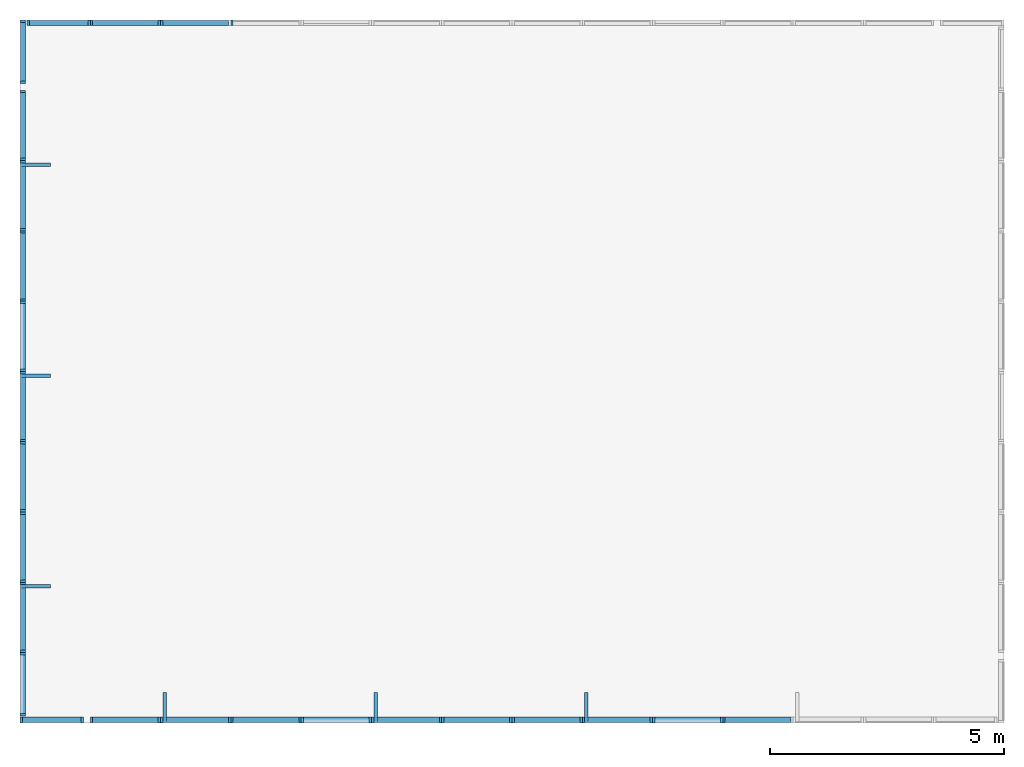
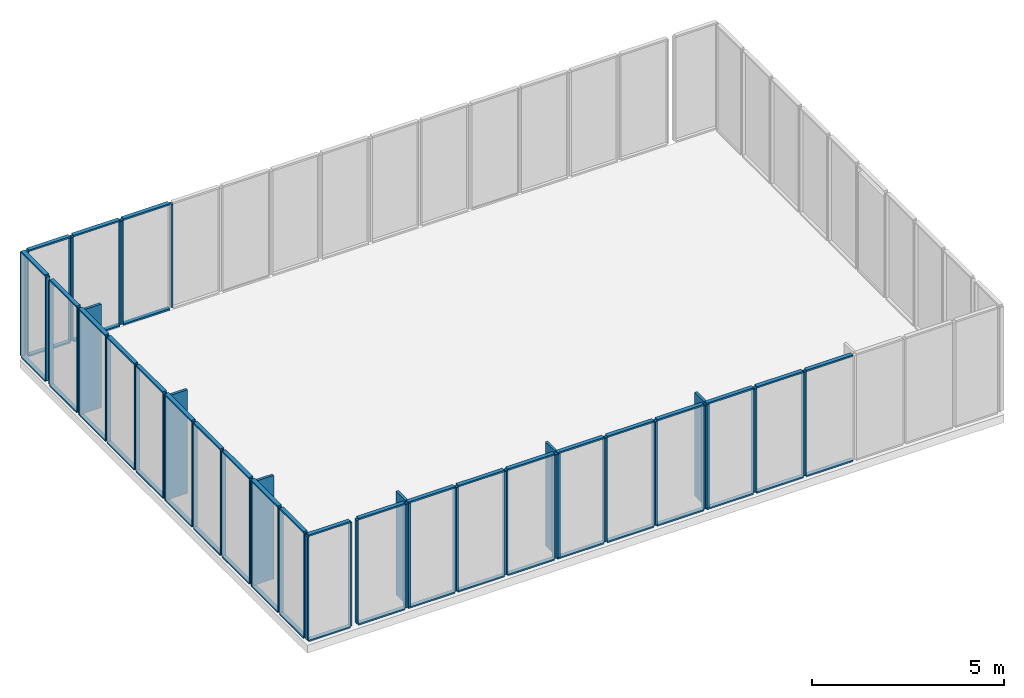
# One storey, part 1 of 3: 101 members.
"""IFC4 building model written with IfcOpenShell, lengths in metres."""

from ifc_helpers import new_model, si_unit, frame, origin_with_axes, place, context, subcontext, project, spatial, indexed_curve, outline, extrude, material, element, save


model = new_model("IFC4")

# Units and contexts
model_context = context("Model", 3, precision=1e-05, world=origin_with_axes())
body_context = subcontext(model_context, "Body", "Model", "MODEL_VIEW")
ifc_project = project(units=[si_unit("AREAUNIT", "SQUARE_METRE"), si_unit("VOLUMEUNIT", "CUBIC_METRE"), si_unit("LENGTHUNIT", "METRE")], contexts=[model_context])

# Site, building, storey
site = spatial("IfcSite", under=ifc_project, Name="Synthetic Site")
building = spatial("IfcBuilding", under=site, Name="Complex Tower")
storey_placement = place(None, frame((0.0, 0.0, 19.8), z_axis=(0.0, 0.0, 1.0), x_axis=(1.0, 0.0, 0.0)))
storey = spatial("IfcBuildingStorey", under=building, at=storey_placement, Name="L06", Elevation=19.8)

# Members
ifc_material = material(Name="Aluminium")
for number, where, z_axis, x_axis, name in (
    (1, (3.0, 1.5, 0.14999999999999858), (0.0, 0.0, 1.0), (1.0, 0.0, 0.0), "CT-L06-S-001-ML"),
    (2, (4.3, 1.5, 0.14999999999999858), (0.0, 0.0, 1.0), (1.0, 0.0, 0.0), "CT-L06-S-001-MR"),
):
    element("IfcMember", number, at=place(storey_placement, frame(where, z_axis=z_axis, x_axis=x_axis)), inside=storey, material=ifc_material, Name=name, PredefinedType="MULLION", context=body_context, shape_type="SweptSolid", body=[
        extrude(outline(indexed_curve([(0.0, 0.0), (0.0, 0.12), (0.05, 0.12), (0.05, 0.0), (0.0, 0.0)], self_intersect=False)), origin_with_axes(), (0.0, 0.0, 1.0), 3.3000000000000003),
    ])
for number, where, z_axis, x_axis, name in (
    (3, (3.05, 1.5, 0.09999999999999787), (0.0, 0.0, 1.0), (1.0, 0.0, 0.0), "CT-L06-S-001-FB"),
    (4, (3.05, 1.5, 3.4499999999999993), (0.0, 0.0, 1.0), (1.0, 0.0, 0.0), "CT-L06-S-001-FT"),
):
    element("IfcMember", number, at=place(storey_placement, frame(where, z_axis=z_axis, x_axis=x_axis)), inside=storey, material=ifc_material, Name=name, PredefinedType="MULLION", context=body_context, shape_type="SweptSolid", body=[
        extrude(outline(indexed_curve([(0.0, 0.0), (0.0, 0.12), (1.25, 0.12), (1.25, 0.0), (0.0, 0.0)], self_intersect=False)), origin_with_axes(), (0.0, 0.0, 1.0), 0.05),
    ])
for number, where, z_axis, x_axis, name in (
    (5, (4.5, 1.5, 0.14999999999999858), (0.0, 0.0, 1.0), (1.0, 0.0, 0.0), "CT-L06-S-002-ML"),
    (6, (5.949999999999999, 1.5, 0.14999999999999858), (0.0, 0.0, 1.0), (1.0, 0.0, 0.0), "CT-L06-S-002-MR"),
):
    element("IfcMember", number, at=place(storey_placement, frame(where, z_axis=z_axis, x_axis=x_axis)), inside=storey, material=ifc_material, Name=name, PredefinedType="MULLION", context=body_context, shape_type="SweptSolid", body=[
        extrude(outline(indexed_curve([(0.0, 0.0), (0.0, 0.12), (0.05, 0.12), (0.05, 0.0), (0.0, 0.0)], self_intersect=False)), origin_with_axes(), (0.0, 0.0, 1.0), 3.3000000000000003),
    ])
for number, where, z_axis, x_axis, name in (
    (7, (4.55, 1.5, 0.09999999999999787), (0.0, 0.0, 1.0), (1.0, 0.0, 0.0), "CT-L06-S-002-FB"),
    (8, (4.55, 1.5, 3.4499999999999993), (0.0, 0.0, 1.0), (1.0, 0.0, 0.0), "CT-L06-S-002-FT"),
):
    element("IfcMember", number, at=place(storey_placement, frame(where, z_axis=z_axis, x_axis=x_axis)), inside=storey, material=ifc_material, Name=name, PredefinedType="MULLION", context=body_context, shape_type="SweptSolid", body=[
        extrude(outline(indexed_curve([(0.0, 0.0), (0.0, 0.12), (1.4, 0.12), (1.4, 0.0), (0.0, 0.0)], self_intersect=False)), origin_with_axes(), (0.0, 0.0, 1.0), 0.05),
    ])
for number, where, z_axis, x_axis, name in (
    (9, (6.0, 1.5, 0.14999999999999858), (0.0, 0.0, 1.0), (1.0, 0.0, 0.0), "CT-L06-S-003-ML"),
    (10, (7.449999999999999, 1.5, 0.14999999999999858), (0.0, 0.0, 1.0), (1.0, 0.0, 0.0), "CT-L06-S-003-MR"),
):
    element("IfcMember", number, at=place(storey_placement, frame(where, z_axis=z_axis, x_axis=x_axis)), inside=storey, material=ifc_material, Name=name, PredefinedType="MULLION", context=body_context, shape_type="SweptSolid", body=[
        extrude(outline(indexed_curve([(0.0, 0.0), (0.0, 0.12), (0.05, 0.12), (0.05, 0.0), (0.0, 0.0)], self_intersect=False)), origin_with_axes(), (0.0, 0.0, 1.0), 3.3000000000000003),
    ])
for number, where, z_axis, x_axis, name in (
    (11, (6.05, 1.5, 0.09999999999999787), (0.0, 0.0, 1.0), (1.0, 0.0, 0.0), "CT-L06-S-003-FB"),
    (12, (6.05, 1.5, 3.4499999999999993), (0.0, 0.0, 1.0), (1.0, 0.0, 0.0), "CT-L06-S-003-FT"),
):
    element("IfcMember", number, at=place(storey_placement, frame(where, z_axis=z_axis, x_axis=x_axis)), inside=storey, material=ifc_material, Name=name, PredefinedType="MULLION", context=body_context, shape_type="SweptSolid", body=[
        extrude(outline(indexed_curve([(0.0, 0.0), (0.0, 0.12), (1.4, 0.12), (1.4, 0.0), (0.0, 0.0)], self_intersect=False)), origin_with_axes(), (0.0, 0.0, 1.0), 0.05),
    ])
member_1_placement = place(storey_placement, frame((6.05, 1.5, 0.14999999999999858), z_axis=(0.0, 0.0, 1.0), x_axis=(1.0, 0.0, 0.0)))
element("IfcMember", 13, at=member_1_placement, inside=storey, material=ifc_material, Name="CT-L06-S-003-FIN", ObjectType="Solar shading", PredefinedType="USERDEFINED", context=body_context, shape_type="SweptSolid", body=[
    extrude(outline(indexed_curve([(0.0, 0.0), (0.0, 0.65), (0.075, 0.65), (0.075, 0.0), (0.0, 0.0)], self_intersect=False)), origin_with_axes(), (0.0, 0.0, 1.0), 3.3000000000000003),
])
for number, where, z_axis, x_axis, name in (
    (14, (7.5, 1.5, 0.14999999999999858), (0.0, 0.0, 1.0), (1.0, 0.0, 0.0), "CT-L06-S-004-ML"),
    (15, (8.95, 1.5, 0.14999999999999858), (0.0, 0.0, 1.0), (1.0, 0.0, 0.0), "CT-L06-S-004-MR"),
):
    element("IfcMember", number, at=place(storey_placement, frame(where, z_axis=z_axis, x_axis=x_axis)), inside=storey, material=ifc_material, Name=name, PredefinedType="MULLION", context=body_context, shape_type="SweptSolid", body=[
        extrude(outline(indexed_curve([(0.0, 0.0), (0.0, 0.12), (0.05, 0.12), (0.05, 0.0), (0.0, 0.0)], self_intersect=False)), origin_with_axes(), (0.0, 0.0, 1.0), 3.3000000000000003),
    ])
for number, where, z_axis, x_axis, name in (
    (16, (7.55, 1.5, 0.09999999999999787), (0.0, 0.0, 1.0), (1.0, 0.0, 0.0), "CT-L06-S-004-FB"),
    (17, (7.55, 1.5, 3.4499999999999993), (0.0, 0.0, 1.0), (1.0, 0.0, 0.0), "CT-L06-S-004-FT"),
):
    element("IfcMember", number, at=place(storey_placement, frame(where, z_axis=z_axis, x_axis=x_axis)), inside=storey, material=ifc_material, Name=name, PredefinedType="MULLION", context=body_context, shape_type="SweptSolid", body=[
        extrude(outline(indexed_curve([(0.0, 0.0), (0.0, 0.12), (1.4, 0.12), (1.4, 0.0), (0.0, 0.0)], self_intersect=False)), origin_with_axes(), (0.0, 0.0, 1.0), 0.05),
    ])
for number, where, z_axis, x_axis, name in (
    (18, (9.0, 1.5, 0.14999999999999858), (0.0, 0.0, 1.0), (1.0, 0.0, 0.0), "CT-L06-S-005-ML"),
    (19, (10.450000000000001, 1.5, 0.14999999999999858), (0.0, 0.0, 1.0), (1.0, 0.0, 0.0), "CT-L06-S-005-MR"),
):
    element("IfcMember", number, at=place(storey_placement, frame(where, z_axis=z_axis, x_axis=x_axis)), inside=storey, material=ifc_material, Name=name, PredefinedType="MULLION", context=body_context, shape_type="SweptSolid", body=[
        extrude(outline(indexed_curve([(0.0, 0.0), (0.0, 0.12), (0.05, 0.12), (0.05, 0.0), (0.0, 0.0)], self_intersect=False)), origin_with_axes(), (0.0, 0.0, 1.0), 3.3000000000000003),
    ])
for number, where, z_axis, x_axis, name in (
    (20, (9.05, 1.5, 0.09999999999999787), (0.0, 0.0, 1.0), (1.0, 0.0, 0.0), "CT-L06-S-005-FB"),
    (21, (9.05, 1.5, 3.4499999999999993), (0.0, 0.0, 1.0), (1.0, 0.0, 0.0), "CT-L06-S-005-FT"),
):
    element("IfcMember", number, at=place(storey_placement, frame(where, z_axis=z_axis, x_axis=x_axis)), inside=storey, material=ifc_material, Name=name, PredefinedType="MULLION", context=body_context, shape_type="SweptSolid", body=[
        extrude(outline(indexed_curve([(0.0, 0.0), (0.0, 0.12), (1.4, 0.12), (1.4, 0.0), (0.0, 0.0)], self_intersect=False)), origin_with_axes(), (0.0, 0.0, 1.0), 0.05),
    ])
for number, where, z_axis, x_axis, name in (
    (22, (10.5, 1.5, 0.14999999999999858), (0.0, 0.0, 1.0), (1.0, 0.0, 0.0), "CT-L06-S-006-ML"),
    (23, (11.950000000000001, 1.5, 0.14999999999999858), (0.0, 0.0, 1.0), (1.0, 0.0, 0.0), "CT-L06-S-006-MR"),
):
    element("IfcMember", number, at=place(storey_placement, frame(where, z_axis=z_axis, x_axis=x_axis)), inside=storey, material=ifc_material, Name=name, PredefinedType="MULLION", context=body_context, shape_type="SweptSolid", body=[
        extrude(outline(indexed_curve([(0.0, 0.0), (0.0, 0.12), (0.05, 0.12), (0.05, 0.0), (0.0, 0.0)], self_intersect=False)), origin_with_axes(), (0.0, 0.0, 1.0), 3.3000000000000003),
    ])
for number, where, z_axis, x_axis, name in (
    (24, (10.55, 1.5, 0.09999999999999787), (0.0, 0.0, 1.0), (1.0, 0.0, 0.0), "CT-L06-S-006-FB"),
    (25, (10.55, 1.5, 3.4499999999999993), (0.0, 0.0, 1.0), (1.0, 0.0, 0.0), "CT-L06-S-006-FT"),
):
    element("IfcMember", number, at=place(storey_placement, frame(where, z_axis=z_axis, x_axis=x_axis)), inside=storey, material=ifc_material, Name=name, PredefinedType="MULLION", context=body_context, shape_type="SweptSolid", body=[
        extrude(outline(indexed_curve([(0.0, 0.0), (0.0, 0.12), (1.4, 0.12), (1.4, 0.0), (0.0, 0.0)], self_intersect=False)), origin_with_axes(), (0.0, 0.0, 1.0), 0.05),
    ])
member_2_placement = place(storey_placement, frame((10.55, 1.5, 0.14999999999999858), z_axis=(0.0, 0.0, 1.0), x_axis=(1.0, 0.0, 0.0)))
element("IfcMember", 26, at=member_2_placement, inside=storey, material=ifc_material, Name="CT-L06-S-006-FIN", ObjectType="Solar shading", PredefinedType="USERDEFINED", context=body_context, shape_type="SweptSolid", body=[
    extrude(outline(indexed_curve([(0.0, 0.0), (0.0, 0.65), (0.075, 0.65), (0.075, 0.0), (0.0, 0.0)], self_intersect=False)), origin_with_axes(), (0.0, 0.0, 1.0), 3.3000000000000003),
])
for number, where, z_axis, x_axis, name in (
    (27, (12.0, 1.5, 0.14999999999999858), (0.0, 0.0, 1.0), (1.0, 0.0, 0.0), "CT-L06-S-007-ML"),
    (28, (13.450000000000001, 1.5, 0.14999999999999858), (0.0, 0.0, 1.0), (1.0, 0.0, 0.0), "CT-L06-S-007-MR"),
):
    element("IfcMember", number, at=place(storey_placement, frame(where, z_axis=z_axis, x_axis=x_axis)), inside=storey, material=ifc_material, Name=name, PredefinedType="MULLION", context=body_context, shape_type="SweptSolid", body=[
        extrude(outline(indexed_curve([(0.0, 0.0), (0.0, 0.12), (0.05, 0.12), (0.05, 0.0), (0.0, 0.0)], self_intersect=False)), origin_with_axes(), (0.0, 0.0, 1.0), 3.3000000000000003),
    ])
for number, where, z_axis, x_axis, name in (
    (29, (12.05, 1.5, 0.09999999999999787), (0.0, 0.0, 1.0), (1.0, 0.0, 0.0), "CT-L06-S-007-FB"),
    (30, (12.05, 1.5, 3.4499999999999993), (0.0, 0.0, 1.0), (1.0, 0.0, 0.0), "CT-L06-S-007-FT"),
):
    element("IfcMember", number, at=place(storey_placement, frame(where, z_axis=z_axis, x_axis=x_axis)), inside=storey, material=ifc_material, Name=name, PredefinedType="MULLION", context=body_context, shape_type="SweptSolid", body=[
        extrude(outline(indexed_curve([(0.0, 0.0), (0.0, 0.12), (1.4, 0.12), (1.4, 0.0), (0.0, 0.0)], self_intersect=False)), origin_with_axes(), (0.0, 0.0, 1.0), 0.05),
    ])
for number, where, z_axis, x_axis, name in (
    (31, (13.5, 1.5, 0.14999999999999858), (0.0, 0.0, 1.0), (1.0, 0.0, 0.0), "CT-L06-S-008-ML"),
    (32, (14.950000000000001, 1.5, 0.14999999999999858), (0.0, 0.0, 1.0), (1.0, 0.0, 0.0), "CT-L06-S-008-MR"),
):
    element("IfcMember", number, at=place(storey_placement, frame(where, z_axis=z_axis, x_axis=x_axis)), inside=storey, material=ifc_material, Name=name, PredefinedType="MULLION", context=body_context, shape_type="SweptSolid", body=[
        extrude(outline(indexed_curve([(0.0, 0.0), (0.0, 0.12), (0.05, 0.12), (0.05, 0.0), (0.0, 0.0)], self_intersect=False)), origin_with_axes(), (0.0, 0.0, 1.0), 3.3000000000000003),
    ])
for number, where, z_axis, x_axis, name in (
    (33, (13.55, 1.5, 0.09999999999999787), (0.0, 0.0, 1.0), (1.0, 0.0, 0.0), "CT-L06-S-008-FB"),
    (34, (13.55, 1.5, 3.4499999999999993), (0.0, 0.0, 1.0), (1.0, 0.0, 0.0), "CT-L06-S-008-FT"),
):
    element("IfcMember", number, at=place(storey_placement, frame(where, z_axis=z_axis, x_axis=x_axis)), inside=storey, material=ifc_material, Name=name, PredefinedType="MULLION", context=body_context, shape_type="SweptSolid", body=[
        extrude(outline(indexed_curve([(0.0, 0.0), (0.0, 0.12), (1.4, 0.12), (1.4, 0.0), (0.0, 0.0)], self_intersect=False)), origin_with_axes(), (0.0, 0.0, 1.0), 0.05),
    ])
for number, where, z_axis, x_axis, name in (
    (35, (15.0, 1.5, 0.14999999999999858), (0.0, 0.0, 1.0), (1.0, 0.0, 0.0), "CT-L06-S-009-ML"),
    (36, (16.45, 1.5, 0.14999999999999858), (0.0, 0.0, 1.0), (1.0, 0.0, 0.0), "CT-L06-S-009-MR"),
):
    element("IfcMember", number, at=place(storey_placement, frame(where, z_axis=z_axis, x_axis=x_axis)), inside=storey, material=ifc_material, Name=name, PredefinedType="MULLION", context=body_context, shape_type="SweptSolid", body=[
        extrude(outline(indexed_curve([(0.0, 0.0), (0.0, 0.12), (0.05, 0.12), (0.05, 0.0), (0.0, 0.0)], self_intersect=False)), origin_with_axes(), (0.0, 0.0, 1.0), 3.3000000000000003),
    ])
for number, where, z_axis, x_axis, name in (
    (37, (15.05, 1.5, 0.09999999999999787), (0.0, 0.0, 1.0), (1.0, 0.0, 0.0), "CT-L06-S-009-FB"),
    (38, (15.05, 1.5, 3.4499999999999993), (0.0, 0.0, 1.0), (1.0, 0.0, 0.0), "CT-L06-S-009-FT"),
):
    element("IfcMember", number, at=place(storey_placement, frame(where, z_axis=z_axis, x_axis=x_axis)), inside=storey, material=ifc_material, Name=name, PredefinedType="MULLION", context=body_context, shape_type="SweptSolid", body=[
        extrude(outline(indexed_curve([(0.0, 0.0), (0.0, 0.12), (1.4, 0.12), (1.4, 0.0), (0.0, 0.0)], self_intersect=False)), origin_with_axes(), (0.0, 0.0, 1.0), 0.05),
    ])
member_3_placement = place(storey_placement, frame((15.05, 1.5, 0.14999999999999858), z_axis=(0.0, 0.0, 1.0), x_axis=(1.0, 0.0, 0.0)))
element("IfcMember", 39, at=member_3_placement, inside=storey, material=ifc_material, Name="CT-L06-S-009-FIN", ObjectType="Solar shading", PredefinedType="USERDEFINED", context=body_context, shape_type="SweptSolid", body=[
    extrude(outline(indexed_curve([(0.0, 0.0), (0.0, 0.65), (0.075, 0.65), (0.075, 0.0), (0.0, 0.0)], self_intersect=False)), origin_with_axes(), (0.0, 0.0, 1.0), 3.3000000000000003),
])
for number, where, z_axis, x_axis, name in (
    (40, (16.5, 1.5, 0.14999999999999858), (0.0, 0.0, 1.0), (1.0, 0.0, 0.0), "CT-L06-S-010-ML"),
    (41, (17.95, 1.5, 0.14999999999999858), (0.0, 0.0, 1.0), (1.0, 0.0, 0.0), "CT-L06-S-010-MR"),
):
    element("IfcMember", number, at=place(storey_placement, frame(where, z_axis=z_axis, x_axis=x_axis)), inside=storey, material=ifc_material, Name=name, PredefinedType="MULLION", context=body_context, shape_type="SweptSolid", body=[
        extrude(outline(indexed_curve([(0.0, 0.0), (0.0, 0.12), (0.05, 0.12), (0.05, 0.0), (0.0, 0.0)], self_intersect=False)), origin_with_axes(), (0.0, 0.0, 1.0), 3.3000000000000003),
    ])
for number, where, z_axis, x_axis, name in (
    (42, (16.55, 1.5, 0.09999999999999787), (0.0, 0.0, 1.0), (1.0, 0.0, 0.0), "CT-L06-S-010-FB"),
    (43, (16.55, 1.5, 3.4499999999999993), (0.0, 0.0, 1.0), (1.0, 0.0, 0.0), "CT-L06-S-010-FT"),
):
    element("IfcMember", number, at=place(storey_placement, frame(where, z_axis=z_axis, x_axis=x_axis)), inside=storey, material=ifc_material, Name=name, PredefinedType="MULLION", context=body_context, shape_type="SweptSolid", body=[
        extrude(outline(indexed_curve([(0.0, 0.0), (0.0, 0.12), (1.4, 0.12), (1.4, 0.0), (0.0, 0.0)], self_intersect=False)), origin_with_axes(), (0.0, 0.0, 1.0), 0.05),
    ])
member_4_placement = place(storey_placement, frame((18.0, 1.5, 0.14999999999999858), z_axis=(0.0, 0.0, 1.0), x_axis=(1.0, 0.0, 0.0)))
element("IfcMember", 44, at=member_4_placement, inside=storey, material=ifc_material, Name="CT-L06-S-011-ML", PredefinedType="MULLION", context=body_context, shape_type="SweptSolid", body=[
    extrude(outline(indexed_curve([(0.0, 0.0), (0.0, 0.12), (0.05, 0.12), (0.05, 0.0), (0.0, 0.0)], self_intersect=False)), origin_with_axes(), (0.0, 0.0, 1.0), 3.3000000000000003),
])
for number, where, z_axis, x_axis, name in (
    (45, (18.05, 1.5, 0.09999999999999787), (0.0, 0.0, 1.0), (1.0, 0.0, 0.0), "CT-L06-S-011-FB"),
    (46, (18.05, 1.5, 3.4499999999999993), (0.0, 0.0, 1.0), (1.0, 0.0, 0.0), "CT-L06-S-011-FT"),
):
    element("IfcMember", number, at=place(storey_placement, frame(where, z_axis=z_axis, x_axis=x_axis)), inside=storey, material=ifc_material, Name=name, PredefinedType="MULLION", context=body_context, shape_type="SweptSolid", body=[
        extrude(outline(indexed_curve([(0.0, 0.0), (0.0, 0.12), (1.4, 0.12), (1.4, 0.0), (0.0, 0.0)], self_intersect=False)), origin_with_axes(), (0.0, 0.0, 1.0), 0.05),
    ])
for number, where, z_axis, x_axis, name in (
    (47, (7.549999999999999, 16.500000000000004, 0.14999999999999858), (0.0, 0.0, 1.0), (-1.0, 1.2246467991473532e-16, 0.0), "CT-L06-N-011-MR"),
    (48, (6.049999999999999, 16.500000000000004, 0.14999999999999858), (0.0, 0.0, 1.0), (-1.0, 1.2246467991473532e-16, 0.0), "CT-L06-N-012-MR"),
):
    element("IfcMember", number, at=place(storey_placement, frame(where, z_axis=z_axis, x_axis=x_axis)), inside=storey, material=ifc_material, Name=name, PredefinedType="MULLION", context=body_context, shape_type="SweptSolid", body=[
        extrude(outline(indexed_curve([(0.0, 0.0), (0.0, 0.12), (0.05, 0.12), (0.05, 0.0), (0.0, 0.0)], self_intersect=False)), origin_with_axes(), (0.0, 0.0, 1.0), 3.3000000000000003),
    ])
for number, where, z_axis, x_axis, name in (
    (49, (7.449999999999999, 16.500000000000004, 0.09999999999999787), (0.0, 0.0, 1.0), (-1.0, 1.2246467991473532e-16, 0.0), "CT-L06-N-012-FB"),
    (50, (7.449999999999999, 16.500000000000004, 3.4499999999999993), (0.0, 0.0, 1.0), (-1.0, 1.2246467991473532e-16, 0.0), "CT-L06-N-012-FT"),
):
    element("IfcMember", number, at=place(storey_placement, frame(where, z_axis=z_axis, x_axis=x_axis)), inside=storey, material=ifc_material, Name=name, PredefinedType="MULLION", context=body_context, shape_type="SweptSolid", body=[
        extrude(outline(indexed_curve([(0.0, 0.0), (0.0, 0.12), (1.4, 0.12), (1.4, 0.0), (0.0, 0.0)], self_intersect=False)), origin_with_axes(), (0.0, 0.0, 1.0), 0.05),
    ])
for number, where, z_axis, x_axis, name in (
    (51, (5.999999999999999, 16.500000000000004, 0.14999999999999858), (0.0, 0.0, 1.0), (-1.0, 1.2246467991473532e-16, 0.0), "CT-L06-N-013-ML"),
    (52, (4.549999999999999, 16.500000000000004, 0.14999999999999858), (0.0, 0.0, 1.0), (-1.0, 1.2246467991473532e-16, 0.0), "CT-L06-N-013-MR"),
):
    element("IfcMember", number, at=place(storey_placement, frame(where, z_axis=z_axis, x_axis=x_axis)), inside=storey, material=ifc_material, Name=name, PredefinedType="MULLION", context=body_context, shape_type="SweptSolid", body=[
        extrude(outline(indexed_curve([(0.0, 0.0), (0.0, 0.12), (0.05, 0.12), (0.05, 0.0), (0.0, 0.0)], self_intersect=False)), origin_with_axes(), (0.0, 0.0, 1.0), 3.3000000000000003),
    ])
for number, where, z_axis, x_axis, name in (
    (53, (5.949999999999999, 16.500000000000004, 0.09999999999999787), (0.0, 0.0, 1.0), (-1.0, 1.2246467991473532e-16, 0.0), "CT-L06-N-013-FB"),
    (54, (5.949999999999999, 16.500000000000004, 3.4499999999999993), (0.0, 0.0, 1.0), (-1.0, 1.2246467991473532e-16, 0.0), "CT-L06-N-013-FT"),
):
    element("IfcMember", number, at=place(storey_placement, frame(where, z_axis=z_axis, x_axis=x_axis)), inside=storey, material=ifc_material, Name=name, PredefinedType="MULLION", context=body_context, shape_type="SweptSolid", body=[
        extrude(outline(indexed_curve([(0.0, 0.0), (0.0, 0.12), (1.4, 0.12), (1.4, 0.0), (0.0, 0.0)], self_intersect=False)), origin_with_axes(), (0.0, 0.0, 1.0), 0.05),
    ])
for number, where, z_axis, x_axis, name in (
    (55, (4.499999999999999, 16.500000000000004, 0.14999999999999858), (0.0, 0.0, 1.0), (-1.0, 1.2246467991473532e-16, 0.0), "CT-L06-N-014-ML"),
    (56, (3.1999999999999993, 16.500000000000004, 0.14999999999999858), (0.0, 0.0, 1.0), (-1.0, 1.2246467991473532e-16, 0.0), "CT-L06-N-014-MR"),
):
    element("IfcMember", number, at=place(storey_placement, frame(where, z_axis=z_axis, x_axis=x_axis)), inside=storey, material=ifc_material, Name=name, PredefinedType="MULLION", context=body_context, shape_type="SweptSolid", body=[
        extrude(outline(indexed_curve([(0.0, 0.0), (0.0, 0.12), (0.05, 0.12), (0.05, 0.0), (0.0, 0.0)], self_intersect=False)), origin_with_axes(), (0.0, 0.0, 1.0), 3.3000000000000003),
    ])
for number, where, z_axis, x_axis, name in (
    (57, (4.449999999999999, 16.500000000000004, 0.09999999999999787), (0.0, 0.0, 1.0), (-1.0, 1.2246467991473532e-16, 0.0), "CT-L06-N-014-FB"),
    (58, (4.449999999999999, 16.500000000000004, 3.4499999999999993), (0.0, 0.0, 1.0), (-1.0, 1.2246467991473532e-16, 0.0), "CT-L06-N-014-FT"),
):
    element("IfcMember", number, at=place(storey_placement, frame(where, z_axis=z_axis, x_axis=x_axis)), inside=storey, material=ifc_material, Name=name, PredefinedType="MULLION", context=body_context, shape_type="SweptSolid", body=[
        extrude(outline(indexed_curve([(0.0, 0.0), (0.0, 0.12), (1.25, 0.12), (1.25, 0.0), (0.0, 0.0)], self_intersect=False)), origin_with_axes(), (0.0, 0.0, 1.0), 0.05),
    ])
for number, where, z_axis, x_axis, name in (
    (59, (3.0, 16.5, 0.14999999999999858), (0.0, 0.0, 1.0), (-1.8369701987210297e-16, -1.0, 0.0), "CT-L06-W-001-ML"),
    (60, (2.9999999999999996, 15.2, 0.14999999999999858), (0.0, 0.0, 1.0), (-1.8369701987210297e-16, -1.0, 0.0), "CT-L06-W-001-MR"),
):
    element("IfcMember", number, at=place(storey_placement, frame(where, z_axis=z_axis, x_axis=x_axis)), inside=storey, material=ifc_material, Name=name, PredefinedType="MULLION", context=body_context, shape_type="SweptSolid", body=[
        extrude(outline(indexed_curve([(0.0, 0.0), (0.0, 0.12), (0.05, 0.12), (0.05, 0.0), (0.0, 0.0)], self_intersect=False)), origin_with_axes(), (0.0, 0.0, 1.0), 3.3000000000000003),
    ])
for number, where, z_axis, x_axis, name in (
    (61, (3.0, 16.45, 0.09999999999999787), (0.0, 0.0, 1.0), (-1.8369701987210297e-16, -1.0, 0.0), "CT-L06-W-001-FB"),
    (62, (3.0, 16.45, 3.4499999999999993), (0.0, 0.0, 1.0), (-1.8369701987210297e-16, -1.0, 0.0), "CT-L06-W-001-FT"),
):
    element("IfcMember", number, at=place(storey_placement, frame(where, z_axis=z_axis, x_axis=x_axis)), inside=storey, material=ifc_material, Name=name, PredefinedType="MULLION", context=body_context, shape_type="SweptSolid", body=[
        extrude(outline(indexed_curve([(0.0, 0.0), (0.0, 0.12), (1.25, 0.12), (1.25, 0.0), (0.0, 0.0)], self_intersect=False)), origin_with_axes(), (0.0, 0.0, 1.0), 0.05),
    ])
for number, where, z_axis, x_axis, name in (
    (63, (2.9999999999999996, 15.0, 0.14999999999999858), (0.0, 0.0, 1.0), (-1.8369701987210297e-16, -1.0, 0.0), "CT-L06-W-002-ML"),
    (64, (2.999999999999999, 13.549999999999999, 0.14999999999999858), (0.0, 0.0, 1.0), (-1.8369701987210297e-16, -1.0, 0.0), "CT-L06-W-002-MR"),
):
    element("IfcMember", number, at=place(storey_placement, frame(where, z_axis=z_axis, x_axis=x_axis)), inside=storey, material=ifc_material, Name=name, PredefinedType="MULLION", context=body_context, shape_type="SweptSolid", body=[
        extrude(outline(indexed_curve([(0.0, 0.0), (0.0, 0.12), (0.05, 0.12), (0.05, 0.0), (0.0, 0.0)], self_intersect=False)), origin_with_axes(), (0.0, 0.0, 1.0), 3.3000000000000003),
    ])
for number, where, z_axis, x_axis, name in (
    (65, (2.9999999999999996, 14.95, 0.09999999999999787), (0.0, 0.0, 1.0), (-1.8369701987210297e-16, -1.0, 0.0), "CT-L06-W-002-FB"),
    (66, (2.9999999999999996, 14.95, 3.4499999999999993), (0.0, 0.0, 1.0), (-1.8369701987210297e-16, -1.0, 0.0), "CT-L06-W-002-FT"),
):
    element("IfcMember", number, at=place(storey_placement, frame(where, z_axis=z_axis, x_axis=x_axis)), inside=storey, material=ifc_material, Name=name, PredefinedType="MULLION", context=body_context, shape_type="SweptSolid", body=[
        extrude(outline(indexed_curve([(0.0, 0.0), (0.0, 0.12), (1.4, 0.12), (1.4, 0.0), (0.0, 0.0)], self_intersect=False)), origin_with_axes(), (0.0, 0.0, 1.0), 0.05),
    ])
for number, where, z_axis, x_axis, name in (
    (67, (2.9999999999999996, 13.5, 0.14999999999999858), (0.0, 0.0, 1.0), (-1.8369701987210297e-16, -1.0, 0.0), "CT-L06-W-003-ML"),
    (68, (2.999999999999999, 12.049999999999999, 0.14999999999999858), (0.0, 0.0, 1.0), (-1.8369701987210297e-16, -1.0, 0.0), "CT-L06-W-003-MR"),
):
    element("IfcMember", number, at=place(storey_placement, frame(where, z_axis=z_axis, x_axis=x_axis)), inside=storey, material=ifc_material, Name=name, PredefinedType="MULLION", context=body_context, shape_type="SweptSolid", body=[
        extrude(outline(indexed_curve([(0.0, 0.0), (0.0, 0.12), (0.05, 0.12), (0.05, 0.0), (0.0, 0.0)], self_intersect=False)), origin_with_axes(), (0.0, 0.0, 1.0), 3.3000000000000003),
    ])
for number, where, z_axis, x_axis, name in (
    (69, (2.9999999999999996, 13.45, 0.09999999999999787), (0.0, 0.0, 1.0), (-1.8369701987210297e-16, -1.0, 0.0), "CT-L06-W-003-FB"),
    (70, (2.9999999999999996, 13.45, 3.4499999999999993), (0.0, 0.0, 1.0), (-1.8369701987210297e-16, -1.0, 0.0), "CT-L06-W-003-FT"),
):
    element("IfcMember", number, at=place(storey_placement, frame(where, z_axis=z_axis, x_axis=x_axis)), inside=storey, material=ifc_material, Name=name, PredefinedType="MULLION", context=body_context, shape_type="SweptSolid", body=[
        extrude(outline(indexed_curve([(0.0, 0.0), (0.0, 0.12), (1.4, 0.12), (1.4, 0.0), (0.0, 0.0)], self_intersect=False)), origin_with_axes(), (0.0, 0.0, 1.0), 0.05),
    ])
member_5_placement = place(storey_placement, frame((2.9999999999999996, 13.45, 0.14999999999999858), z_axis=(0.0, 0.0, 1.0), x_axis=(-1.8369701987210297e-16, -1.0, 0.0)))
element("IfcMember", 71, at=member_5_placement, inside=storey, material=ifc_material, Name="CT-L06-W-003-FIN", ObjectType="Solar shading", PredefinedType="USERDEFINED", context=body_context, shape_type="SweptSolid", body=[
    extrude(outline(indexed_curve([(0.0, 0.0), (0.0, 0.65), (0.075, 0.65), (0.075, 0.0), (0.0, 0.0)], self_intersect=False)), origin_with_axes(), (0.0, 0.0, 1.0), 3.3000000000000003),
])
for number, where, z_axis, x_axis, name in (
    (72, (2.999999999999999, 12.0, 0.14999999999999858), (0.0, 0.0, 1.0), (-1.8369701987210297e-16, -1.0, 0.0), "CT-L06-W-004-ML"),
    (73, (2.9999999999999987, 10.549999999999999, 0.14999999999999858), (0.0, 0.0, 1.0), (-1.8369701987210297e-16, -1.0, 0.0), "CT-L06-W-004-MR"),
):
    element("IfcMember", number, at=place(storey_placement, frame(where, z_axis=z_axis, x_axis=x_axis)), inside=storey, material=ifc_material, Name=name, PredefinedType="MULLION", context=body_context, shape_type="SweptSolid", body=[
        extrude(outline(indexed_curve([(0.0, 0.0), (0.0, 0.12), (0.05, 0.12), (0.05, 0.0), (0.0, 0.0)], self_intersect=False)), origin_with_axes(), (0.0, 0.0, 1.0), 3.3000000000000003),
    ])
for number, where, z_axis, x_axis, name in (
    (74, (2.999999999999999, 11.95, 0.09999999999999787), (0.0, 0.0, 1.0), (-1.8369701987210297e-16, -1.0, 0.0), "CT-L06-W-004-FB"),
    (75, (2.999999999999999, 11.95, 3.4499999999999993), (0.0, 0.0, 1.0), (-1.8369701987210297e-16, -1.0, 0.0), "CT-L06-W-004-FT"),
):
    element("IfcMember", number, at=place(storey_placement, frame(where, z_axis=z_axis, x_axis=x_axis)), inside=storey, material=ifc_material, Name=name, PredefinedType="MULLION", context=body_context, shape_type="SweptSolid", body=[
        extrude(outline(indexed_curve([(0.0, 0.0), (0.0, 0.12), (1.4, 0.12), (1.4, 0.0), (0.0, 0.0)], self_intersect=False)), origin_with_axes(), (0.0, 0.0, 1.0), 0.05),
    ])
for number, where, z_axis, x_axis, name in (
    (76, (2.9999999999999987, 10.5, 0.14999999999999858), (0.0, 0.0, 1.0), (-1.8369701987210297e-16, -1.0, 0.0), "CT-L06-W-005-ML"),
    (77, (2.9999999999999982, 9.049999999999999, 0.14999999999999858), (0.0, 0.0, 1.0), (-1.8369701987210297e-16, -1.0, 0.0), "CT-L06-W-005-MR"),
):
    element("IfcMember", number, at=place(storey_placement, frame(where, z_axis=z_axis, x_axis=x_axis)), inside=storey, material=ifc_material, Name=name, PredefinedType="MULLION", context=body_context, shape_type="SweptSolid", body=[
        extrude(outline(indexed_curve([(0.0, 0.0), (0.0, 0.12), (0.05, 0.12), (0.05, 0.0), (0.0, 0.0)], self_intersect=False)), origin_with_axes(), (0.0, 0.0, 1.0), 3.3000000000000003),
    ])
for number, where, z_axis, x_axis, name in (
    (78, (2.9999999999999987, 10.45, 0.09999999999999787), (0.0, 0.0, 1.0), (-1.8369701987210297e-16, -1.0, 0.0), "CT-L06-W-005-FB"),
    (79, (2.9999999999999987, 10.45, 3.4499999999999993), (0.0, 0.0, 1.0), (-1.8369701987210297e-16, -1.0, 0.0), "CT-L06-W-005-FT"),
):
    element("IfcMember", number, at=place(storey_placement, frame(where, z_axis=z_axis, x_axis=x_axis)), inside=storey, material=ifc_material, Name=name, PredefinedType="MULLION", context=body_context, shape_type="SweptSolid", body=[
        extrude(outline(indexed_curve([(0.0, 0.0), (0.0, 0.12), (1.4, 0.12), (1.4, 0.0), (0.0, 0.0)], self_intersect=False)), origin_with_axes(), (0.0, 0.0, 1.0), 0.05),
    ])
for number, where, z_axis, x_axis, name in (
    (80, (2.9999999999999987, 9.0, 0.14999999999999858), (0.0, 0.0, 1.0), (-1.8369701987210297e-16, -1.0, 0.0), "CT-L06-W-006-ML"),
    (81, (2.9999999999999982, 7.549999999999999, 0.14999999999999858), (0.0, 0.0, 1.0), (-1.8369701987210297e-16, -1.0, 0.0), "CT-L06-W-006-MR"),
):
    element("IfcMember", number, at=place(storey_placement, frame(where, z_axis=z_axis, x_axis=x_axis)), inside=storey, material=ifc_material, Name=name, PredefinedType="MULLION", context=body_context, shape_type="SweptSolid", body=[
        extrude(outline(indexed_curve([(0.0, 0.0), (0.0, 0.12), (0.05, 0.12), (0.05, 0.0), (0.0, 0.0)], self_intersect=False)), origin_with_axes(), (0.0, 0.0, 1.0), 3.3000000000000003),
    ])
for number, where, z_axis, x_axis, name in (
    (82, (2.9999999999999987, 8.95, 0.09999999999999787), (0.0, 0.0, 1.0), (-1.8369701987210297e-16, -1.0, 0.0), "CT-L06-W-006-FB"),
    (83, (2.9999999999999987, 8.95, 3.4499999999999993), (0.0, 0.0, 1.0), (-1.8369701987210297e-16, -1.0, 0.0), "CT-L06-W-006-FT"),
):
    element("IfcMember", number, at=place(storey_placement, frame(where, z_axis=z_axis, x_axis=x_axis)), inside=storey, material=ifc_material, Name=name, PredefinedType="MULLION", context=body_context, shape_type="SweptSolid", body=[
        extrude(outline(indexed_curve([(0.0, 0.0), (0.0, 0.12), (1.4, 0.12), (1.4, 0.0), (0.0, 0.0)], self_intersect=False)), origin_with_axes(), (0.0, 0.0, 1.0), 0.05),
    ])
member_6_placement = place(storey_placement, frame((2.9999999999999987, 8.95, 0.14999999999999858), z_axis=(0.0, 0.0, 1.0), x_axis=(-1.8369701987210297e-16, -1.0, 0.0)))
element("IfcMember", 84, at=member_6_placement, inside=storey, material=ifc_material, Name="CT-L06-W-006-FIN", ObjectType="Solar shading", PredefinedType="USERDEFINED", context=body_context, shape_type="SweptSolid", body=[
    extrude(outline(indexed_curve([(0.0, 0.0), (0.0, 0.65), (0.075, 0.65), (0.075, 0.0), (0.0, 0.0)], self_intersect=False)), origin_with_axes(), (0.0, 0.0, 1.0), 3.3000000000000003),
])
for number, where, z_axis, x_axis, name in (
    (85, (2.9999999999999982, 7.499999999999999, 0.14999999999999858), (0.0, 0.0, 1.0), (-1.8369701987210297e-16, -1.0, 0.0), "CT-L06-W-007-ML"),
    (86, (2.999999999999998, 6.049999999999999, 0.14999999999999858), (0.0, 0.0, 1.0), (-1.8369701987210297e-16, -1.0, 0.0), "CT-L06-W-007-MR"),
):
    element("IfcMember", number, at=place(storey_placement, frame(where, z_axis=z_axis, x_axis=x_axis)), inside=storey, material=ifc_material, Name=name, PredefinedType="MULLION", context=body_context, shape_type="SweptSolid", body=[
        extrude(outline(indexed_curve([(0.0, 0.0), (0.0, 0.12), (0.05, 0.12), (0.05, 0.0), (0.0, 0.0)], self_intersect=False)), origin_with_axes(), (0.0, 0.0, 1.0), 3.3000000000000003),
    ])
for number, where, z_axis, x_axis, name in (
    (87, (2.9999999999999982, 7.449999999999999, 0.09999999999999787), (0.0, 0.0, 1.0), (-1.8369701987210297e-16, -1.0, 0.0), "CT-L06-W-007-FB"),
    (88, (2.9999999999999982, 7.449999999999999, 3.4499999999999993), (0.0, 0.0, 1.0), (-1.8369701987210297e-16, -1.0, 0.0), "CT-L06-W-007-FT"),
):
    element("IfcMember", number, at=place(storey_placement, frame(where, z_axis=z_axis, x_axis=x_axis)), inside=storey, material=ifc_material, Name=name, PredefinedType="MULLION", context=body_context, shape_type="SweptSolid", body=[
        extrude(outline(indexed_curve([(0.0, 0.0), (0.0, 0.12), (1.4, 0.12), (1.4, 0.0), (0.0, 0.0)], self_intersect=False)), origin_with_axes(), (0.0, 0.0, 1.0), 0.05),
    ])
for number, where, z_axis, x_axis, name in (
    (89, (2.9999999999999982, 5.999999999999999, 0.14999999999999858), (0.0, 0.0, 1.0), (-1.8369701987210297e-16, -1.0, 0.0), "CT-L06-W-008-ML"),
    (90, (2.999999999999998, 4.549999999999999, 0.14999999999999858), (0.0, 0.0, 1.0), (-1.8369701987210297e-16, -1.0, 0.0), "CT-L06-W-008-MR"),
):
    element("IfcMember", number, at=place(storey_placement, frame(where, z_axis=z_axis, x_axis=x_axis)), inside=storey, material=ifc_material, Name=name, PredefinedType="MULLION", context=body_context, shape_type="SweptSolid", body=[
        extrude(outline(indexed_curve([(0.0, 0.0), (0.0, 0.12), (0.05, 0.12), (0.05, 0.0), (0.0, 0.0)], self_intersect=False)), origin_with_axes(), (0.0, 0.0, 1.0), 3.3000000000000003),
    ])
for number, where, z_axis, x_axis, name in (
    (91, (2.9999999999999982, 5.949999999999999, 0.09999999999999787), (0.0, 0.0, 1.0), (-1.8369701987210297e-16, -1.0, 0.0), "CT-L06-W-008-FB"),
    (92, (2.9999999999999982, 5.949999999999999, 3.4499999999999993), (0.0, 0.0, 1.0), (-1.8369701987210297e-16, -1.0, 0.0), "CT-L06-W-008-FT"),
):
    element("IfcMember", number, at=place(storey_placement, frame(where, z_axis=z_axis, x_axis=x_axis)), inside=storey, material=ifc_material, Name=name, PredefinedType="MULLION", context=body_context, shape_type="SweptSolid", body=[
        extrude(outline(indexed_curve([(0.0, 0.0), (0.0, 0.12), (1.4, 0.12), (1.4, 0.0), (0.0, 0.0)], self_intersect=False)), origin_with_axes(), (0.0, 0.0, 1.0), 0.05),
    ])
for number, where, z_axis, x_axis, name in (
    (93, (2.999999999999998, 4.499999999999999, 0.14999999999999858), (0.0, 0.0, 1.0), (-1.8369701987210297e-16, -1.0, 0.0), "CT-L06-W-009-ML"),
    (94, (2.9999999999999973, 3.0499999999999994, 0.14999999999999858), (0.0, 0.0, 1.0), (-1.8369701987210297e-16, -1.0, 0.0), "CT-L06-W-009-MR"),
):
    element("IfcMember", number, at=place(storey_placement, frame(where, z_axis=z_axis, x_axis=x_axis)), inside=storey, material=ifc_material, Name=name, PredefinedType="MULLION", context=body_context, shape_type="SweptSolid", body=[
        extrude(outline(indexed_curve([(0.0, 0.0), (0.0, 0.12), (0.05, 0.12), (0.05, 0.0), (0.0, 0.0)], self_intersect=False)), origin_with_axes(), (0.0, 0.0, 1.0), 3.3000000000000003),
    ])
for number, where, z_axis, x_axis, name in (
    (95, (2.999999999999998, 4.449999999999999, 0.09999999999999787), (0.0, 0.0, 1.0), (-1.8369701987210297e-16, -1.0, 0.0), "CT-L06-W-009-FB"),
    (96, (2.999999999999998, 4.449999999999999, 3.4499999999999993), (0.0, 0.0, 1.0), (-1.8369701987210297e-16, -1.0, 0.0), "CT-L06-W-009-FT"),
):
    element("IfcMember", number, at=place(storey_placement, frame(where, z_axis=z_axis, x_axis=x_axis)), inside=storey, material=ifc_material, Name=name, PredefinedType="MULLION", context=body_context, shape_type="SweptSolid", body=[
        extrude(outline(indexed_curve([(0.0, 0.0), (0.0, 0.12), (1.4, 0.12), (1.4, 0.0), (0.0, 0.0)], self_intersect=False)), origin_with_axes(), (0.0, 0.0, 1.0), 0.05),
    ])
member_7_placement = place(storey_placement, frame((2.999999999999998, 4.449999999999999, 0.14999999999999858), z_axis=(0.0, 0.0, 1.0), x_axis=(-1.8369701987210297e-16, -1.0, 0.0)))
element("IfcMember", 97, at=member_7_placement, inside=storey, material=ifc_material, Name="CT-L06-W-009-FIN", ObjectType="Solar shading", PredefinedType="USERDEFINED", context=body_context, shape_type="SweptSolid", body=[
    extrude(outline(indexed_curve([(0.0, 0.0), (0.0, 0.65), (0.075, 0.65), (0.075, 0.0), (0.0, 0.0)], self_intersect=False)), origin_with_axes(), (0.0, 0.0, 1.0), 3.3000000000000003),
])
for number, where, z_axis, x_axis, name in (
    (98, (2.9999999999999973, 2.999999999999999, 0.14999999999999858), (0.0, 0.0, 1.0), (-1.8369701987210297e-16, -1.0, 0.0), "CT-L06-W-010-ML"),
    (99, (2.999999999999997, 1.6999999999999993, 0.14999999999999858), (0.0, 0.0, 1.0), (-1.8369701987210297e-16, -1.0, 0.0), "CT-L06-W-010-MR"),
):
    element("IfcMember", number, at=place(storey_placement, frame(where, z_axis=z_axis, x_axis=x_axis)), inside=storey, material=ifc_material, Name=name, PredefinedType="MULLION", context=body_context, shape_type="SweptSolid", body=[
        extrude(outline(indexed_curve([(0.0, 0.0), (0.0, 0.12), (0.05, 0.12), (0.05, 0.0), (0.0, 0.0)], self_intersect=False)), origin_with_axes(), (0.0, 0.0, 1.0), 3.3000000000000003),
    ])
for number, where, z_axis, x_axis, name in (
    (100, (2.9999999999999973, 2.9499999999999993, 0.09999999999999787), (0.0, 0.0, 1.0), (-1.8369701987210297e-16, -1.0, 0.0), "CT-L06-W-010-FB"),
    (101, (2.9999999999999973, 2.9499999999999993, 3.4499999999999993), (0.0, 0.0, 1.0), (-1.8369701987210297e-16, -1.0, 0.0), "CT-L06-W-010-FT"),
):
    element("IfcMember", number, at=place(storey_placement, frame(where, z_axis=z_axis, x_axis=x_axis)), inside=storey, material=ifc_material, Name=name, PredefinedType="MULLION", context=body_context, shape_type="SweptSolid", body=[
        extrude(outline(indexed_curve([(0.0, 0.0), (0.0, 0.12), (1.25, 0.12), (1.25, 0.0), (0.0, 0.0)], self_intersect=False)), origin_with_axes(), (0.0, 0.0, 1.0), 0.05),
    ])

save(model, "model.ifc")
